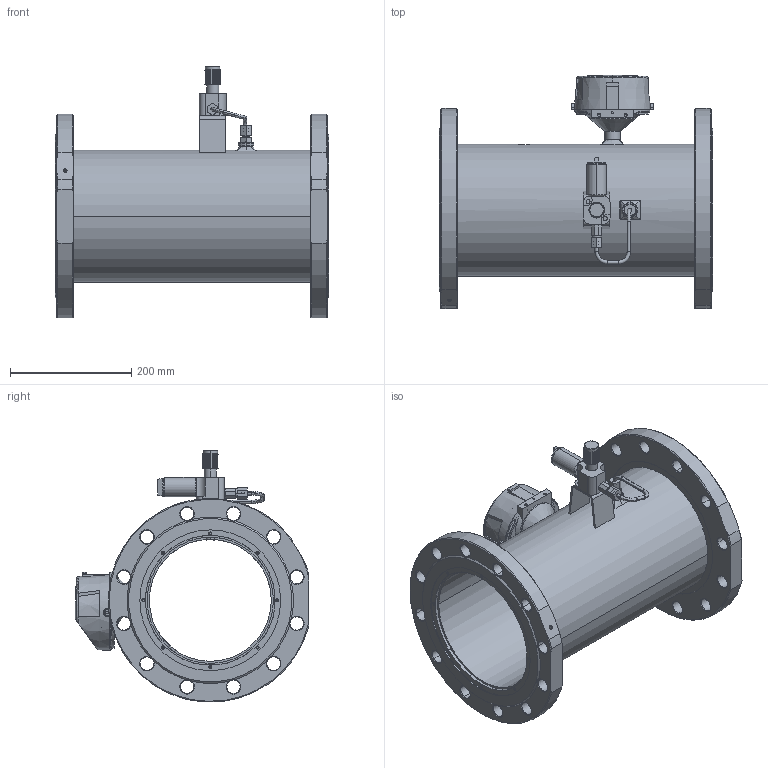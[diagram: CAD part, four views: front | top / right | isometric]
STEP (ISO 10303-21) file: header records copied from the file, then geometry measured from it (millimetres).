
FILE_DESCRIPTION((''),'2;1');
FILE_NAME('12345_06_ASM','2020-11-24T',('solovki'),(''),'CREO PARAMETRIC BY PTC INC, 2018360','CREO PARAMETRIC BY PTC INC, 2018360','');
FILE_SCHEMA(('AUTOMOTIVE_DESIGN { 1 0 10303 214 1 1 1 1 }'));
Length unit declared in the file: millimetre
Products named in the file (17): 302_AF3; 303_AF1; 304_AF1; 305_AF0; 306_AF0; 307_AF0; 307_AF1; 308_AF0; 301_AF1_ASM; 309; 310; 311; 312; 313; 314; 315; 12345_06_ASM
Assembly tree (18 placements, depth 3):
  12345_06_ASM
    301_AF1_ASM
      302_AF3
      303_AF1
      304_AF1
      305_AF0
      306_AF0
      307_AF0
      307_AF1
      308_AF0
    309
    310
    311
    312
    313  x2
    314  x2
    315
Bounding box: 450 x 384.24 x 415.11 mm (x, y, z)
Volume: 5131580.6 mm3; surface area: 1098008.3 mm2
Topology: 17 solids, 40 shells, 918 faces, 2270 edges, 1402 vertices
Faces by surface type: cylinder 378, plane 262, cone 215, bspline 26, sphere 22, torus 15
Entity records: 41688 total; most frequent: CARTESIAN_POINT 7102, DIRECTION 4689, ORIENTED_EDGE 4138, PRESENTATION_STYLE_ASSIGNMENT 3009, STYLED_ITEM 3009, CURVE_STYLE 2132, EDGE_CURVE 2132, AXIS2_PLACEMENT_3D 1875
